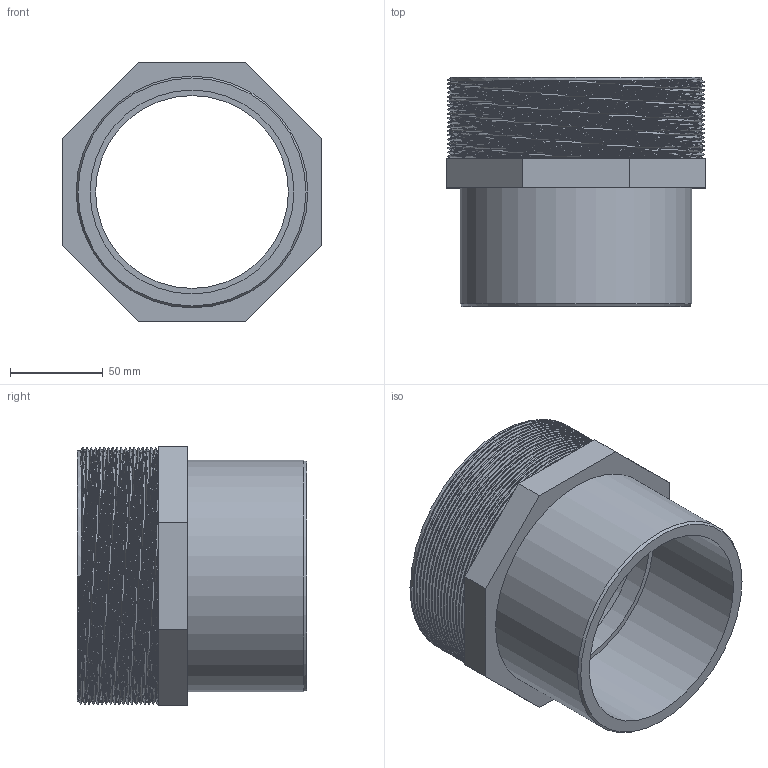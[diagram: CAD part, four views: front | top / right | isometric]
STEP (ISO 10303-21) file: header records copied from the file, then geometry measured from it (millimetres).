
FILE_DESCRIPTION(/* description */ ('PVC adattatore incollaggio-filettatura BSP maschio'),/* implementation_level */ '2;1');
FILE_NAME(/* name */ 'C:\Users\POLYPIPE\Desktop\DATASET INVENTOR\LIBRERIA EFFAST\RACCORDI 3DxWEB\RGR\3D_RGRAMG\3D_RGRAMG110M.stp',/* time_stamp */ '2018-01-19T17:38:04+01:00',/* author */ ('POLYPIPE'),/* organization */ ('Polypipe Italia s.r.l.'),/* preprocessor_version */ 'ST-DEVELOPER v16.1',/* originating_system */ 'Autodesk Inventor 2016',/* authorisation */ '');
FILE_SCHEMA (('CONFIG_CONTROL_DESIGN'));
Length unit declared in the file: millimetre
Products named in the file (1): 3D_RGRAMG
Bounding box: 140 x 123.6 x 140 mm (x, y, z)
Volume: 435481 mm3; surface area: 123204.4 mm2
Topology: 1 solids, 1 shells, 26 faces, 56 edges, 36 vertices
Faces by surface type: plane 15, cylinder 5, bspline 5, cone 1
Full cylindrical faces by diameter (mm): 104 x1, 110 x1, 119.4 x1, 125 x1, 135.472 x1
Entity records: 7581 total; most frequent: CARTESIAN_POINT 7028, ORIENTED_EDGE 102, DIRECTION 97, EDGE_CURVE 51, EDGE_LOOP 37, VERTEX_POINT 36, AXIS2_PLACEMENT_3D 35, LINE 27
